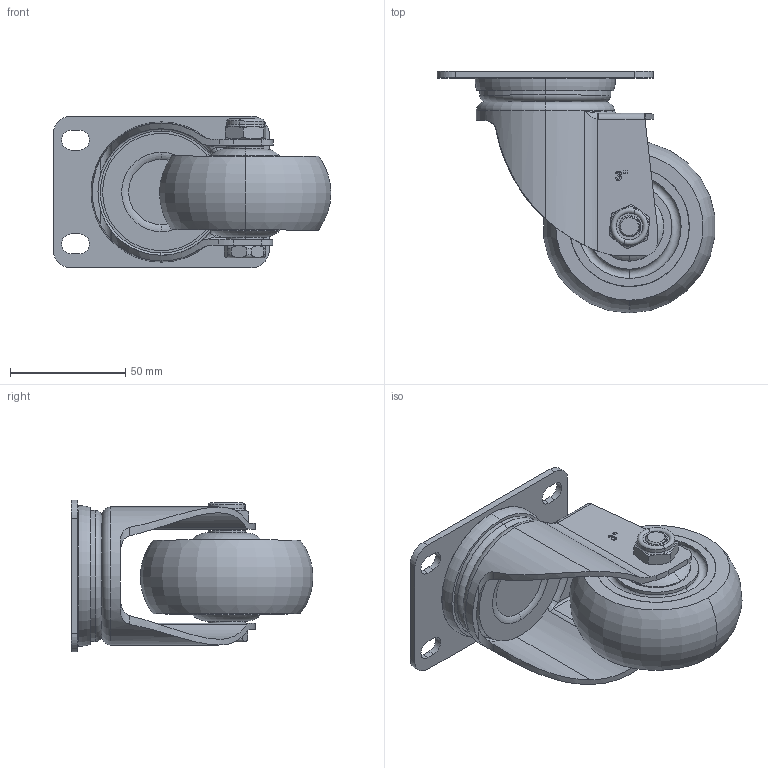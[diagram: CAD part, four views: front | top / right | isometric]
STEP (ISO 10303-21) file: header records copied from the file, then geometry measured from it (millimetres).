
FILE_DESCRIPTION (( 'STEP AP203' ), '1' );
FILE_NAME ('3寸平底万向.STEP', '2024-03-19T03:36:33', ( '微软用户' ), ( '微软中国' ), 'SwSTEP 2.0', 'SolidWorks 2008', '' );
FILE_SCHEMA (( 'CONFIG_CONTROL_DESIGN' ));
Length unit declared in the file: millimetre
Products named in the file (7): 40.2mm中型中管_默认; 底板_默认; M10-55蹟裝; 3渡す菁勀砃; M10蹟譫; 2023-3-8  中型3寸万向支架_默认; 中型3寸轮_默认
Assembly tree (6 placements, depth 2):
  3渡す菁勀砃
    40.2mm中型中管_默认
    2023-3-8  中型3寸万向支架_默认
    M10-55蹟裝
    底板_默认
    M10蹟譫
    中型3寸轮_默认
Bounding box: 120.74 x 105.11 x 66 mm (x, y, z)
Volume: 214970.7 mm3; surface area: 66109 mm2
Topology: 6 solids, 6 shells, 458 faces, 1174 edges, 761 vertices
Faces by surface type: plane 173, cylinder 135, bspline 90, torus 44, cone 16
Entity records: 20433 total; most frequent: CARTESIAN_POINT 9210, ORIENTED_EDGE 2340, DIRECTION 1930, EDGE_CURVE 1170, VERTEX_POINT 761, AXIS2_PLACEMENT_3D 686, VECTOR 558, LINE 558
